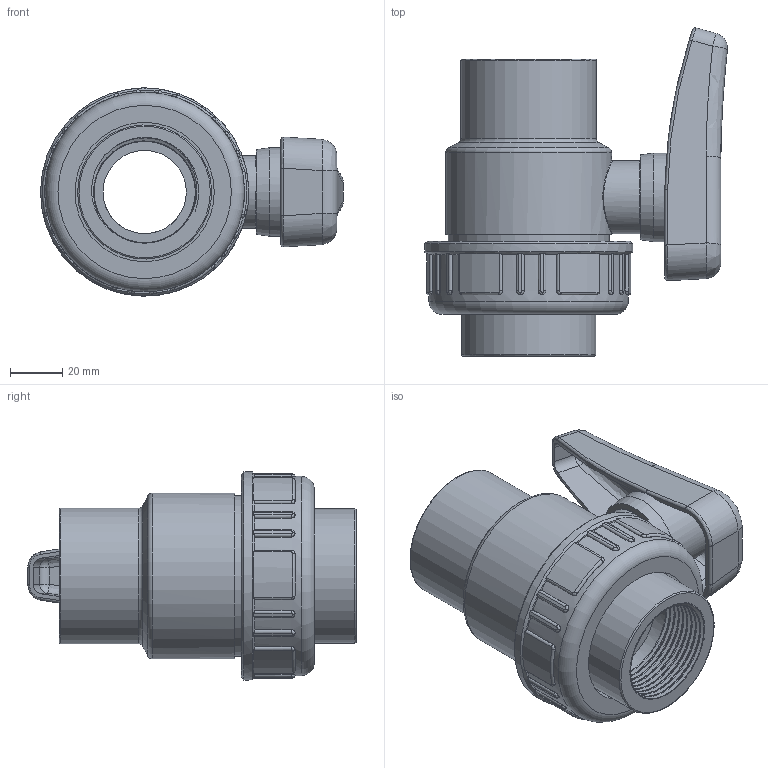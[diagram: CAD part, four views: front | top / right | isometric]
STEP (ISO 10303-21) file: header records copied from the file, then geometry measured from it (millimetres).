
FILE_DESCRIPTION(/* description */ (''),/* implementation_level */ '2;1');
FILE_NAME(/* name */ 'C:\Users\POLYPIPE\Desktop\DATASET INVENTOR\LIBRERIA EFFAST\3D_VALVOLE\3D_VALVOLE A SFERA\3D_SV\3D_BERSVE\3D_BERSVE040E.stp',/* time_stamp */ '2018-01-24T14:52:56+01:00',/* author */ ('POLYPIPE'),/* organization */ (''),/* preprocessor_version */ 'ST-DEVELOPER v16.1',/* originating_system */ 'Autodesk Inventor 2016',/* authorisation */ '');
FILE_SCHEMA (('CONFIG_CONTROL_DESIGN'));
Length unit declared in the file: centimetre
Products named in the file (1): 3D_BERSVE040E
Bounding box: 116.38 x 126.15 x 80 mm (x, y, z)
Volume: 263625.8 mm3; surface area: 79215.6 mm2
Topology: 2 solids, 2 shells, 361 faces, 926 edges, 570 vertices
Faces by surface type: cylinder 117, bspline 105, plane 104, torus 19, sphere 12, cone 4
Full cylindrical faces by diameter (mm): 18.1 x1, 28.1 x1, 32 x2, 34 x1, 38.952 x2, 51.5 x1, 52 x1, 53.5 x1, 60 x1, 61.8 x1, 63.7 x1, 65.6 x1, 76.6 x1, 80 x1
Entity records: 40626 total; most frequent: CARTESIAN_POINT 32109, ORIENTED_EDGE 1784, DIRECTION 1531, EDGE_CURVE 892, AXIS2_PLACEMENT_3D 604, VERTEX_POINT 561, EDGE_LOOP 401, STYLED_ITEM 363
